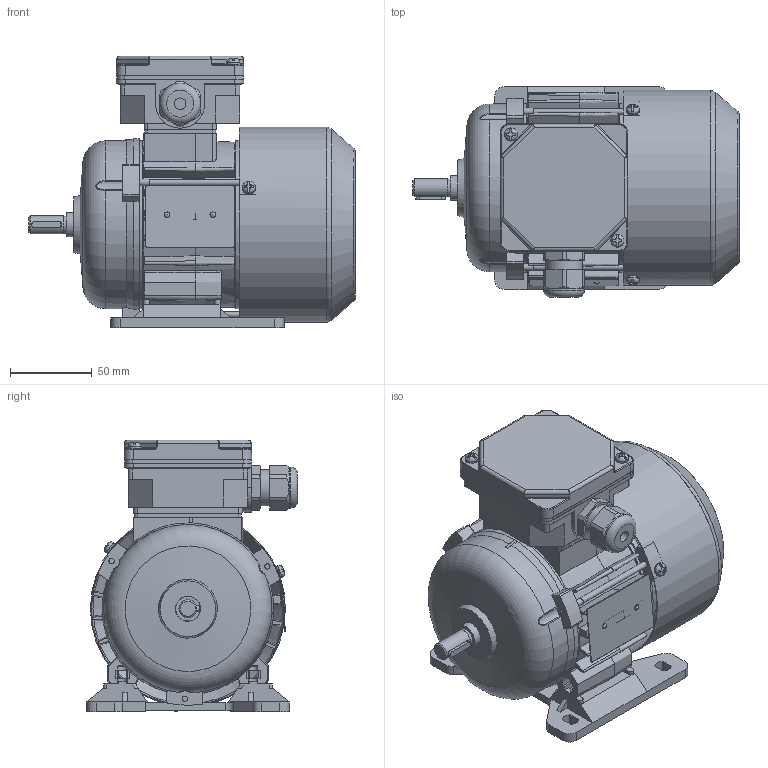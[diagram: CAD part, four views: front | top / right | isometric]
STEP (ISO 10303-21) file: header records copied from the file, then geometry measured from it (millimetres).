
FILE_DESCRIPTION(/* description */ ('Unknown'),/* implementation_level */ '2;1');
FILE_NAME(/* name */ '2SIE63-2A',/* time_stamp */ '2021-04-12T11:37:53+02:00',/* author */ ('Unknown'),/* organization */ ('Unknown'),/* preprocessor_version */ 'ST-DEVELOPER v16.7',/* originating_system */ 'Solid Edge',/* authorisation */ 'Unknown');
FILE_SCHEMA (('AUTOMOTIVE_DESIGN {1 0 10303 214 3 1 1}'));
Length unit declared in the file: millimetre
Products named in the file (1): 2SIE63-2A
Bounding box: 199.49 x 129 x 166 mm (x, y, z)
Volume: 508080.3 mm3; surface area: 314159.3 mm2
Topology: 2 solids, 2 shells, 1975 faces, 5635 edges, 3672 vertices
Faces by surface type: plane 1007, cylinder 551, torus 145, cone 144, bspline 107, sphere 21
Full cylindrical faces by diameter (mm): 2.4 x2, 3.242 x3, 3.7 x7, 4 x5, 4.5 x3, 4.8 x2, 5 x2, 5.8 x4, 7 x4, 8 x6, 10.599 x1, 10.999 x1, 12.899 x1, 13.099 x1, 14.998 x2, 15.4 x2, 18.998 x2, 19.498 x1, 19.698 x1, 19.998 x1, 20.098 x1, 21.518 x4, 22.3 x1, 25 x1, 28 x2, 28.48 x4, 31 x2, 32 x1, 35 x3, 71.993 x1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
Entity records: 80866 total; most frequent: CARTESIAN_POINT 17671, ORIENTED_EDGE 10652, DIRECTION 9769, EDGE_CURVE 5326, AXIS2_PLACEMENT_3D 3594, VERTEX_POINT 3551, LINE 2581, VECTOR 2581
